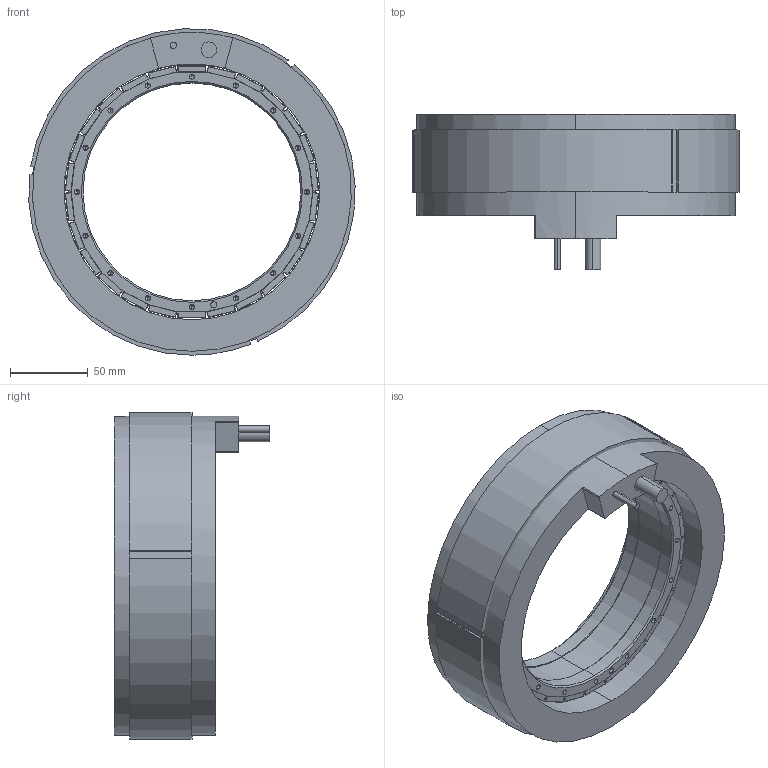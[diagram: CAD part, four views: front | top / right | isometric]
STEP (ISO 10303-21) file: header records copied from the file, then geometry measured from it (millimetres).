
FILE_DESCRIPTION (( 'STEP AP203' ), '1' );
FILE_NAME ('TM210-65 KIT.STEP', '2024-03-27T03:05:15', ( '' ), ( '' ), 'SwSTEP 2.0', 'SolidWorks 2021', '' );
FILE_SCHEMA (( 'CONFIG_CONTROL_DESIGN' ));
Length unit declared in the file: millimetre
Products named in the file (1): TM210-65 KIT
Bounding box: 209.71 x 100 x 209.86 mm (x, y, z)
Volume: 1144715.3 mm3; surface area: 263620.1 mm2
Topology: 29 solids, 29 shells, 1010 faces, 2360 edges, 1172 vertices
Faces by surface type: cylinder 417, plane 317, sphere 208, cone 68
Entity records: 26115 total; most frequent: DIRECTION 4952, CARTESIAN_POINT 4271, ORIENTED_EDGE 4176, EDGE_CURVE 2088, AXIS2_PLACEMENT_3D 1853, LINE 1246, VECTOR 1246, VERTEX_POINT 1172
